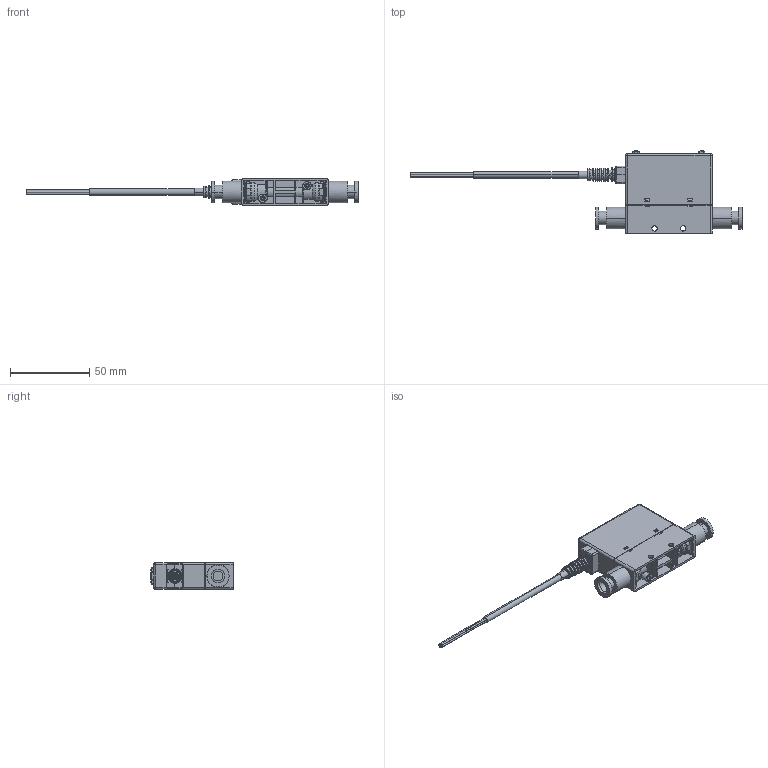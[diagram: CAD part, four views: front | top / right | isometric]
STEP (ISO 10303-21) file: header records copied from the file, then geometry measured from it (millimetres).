
FILE_DESCRIPTION(('STEP AP214'),'1');
FILE_NAME('.stp','2026-02-04T03:22:28',(' '),(' '),'Spatial InterOp 3D',' ',' ');
FILE_SCHEMA(('AUTOMOTIVE_DESIGN { 1 0 10303 214 1 1 1 1 }'));
Length unit declared in the file: millimetre
Products named in the file (4): MFPS01-※※※-※※8※; 1; 2; 3
Assembly tree (3 placements, depth 2):
  MFPS01-※※※-※※8※
    1
    2
    3
Bounding box: 209.2 x 51.85 x 17 mm (x, y, z)
Volume: 47568.5 mm3; surface area: 19150.6 mm2
Topology: 2 solids, 216 shells, 1016 faces, 3453 edges, 2682 vertices
Faces by surface type: plane 588, cylinder 282, cone 54, torus 48, bspline 36, sphere 8
Entity records: 49068 total; most frequent: CARTESIAN_POINT 11031, DIRECTION 6205, ORIENTED_EDGE 5626, EDGE_CURVE 3453, VERTEX_POINT 2682, LINE 2249, VECTOR 2249, AXIS2_PLACEMENT_3D 1978
